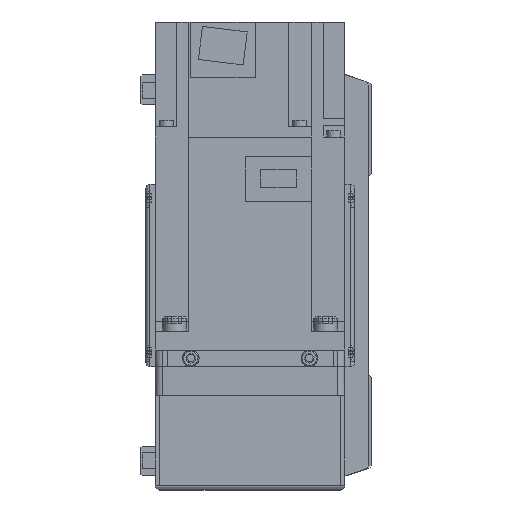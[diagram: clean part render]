
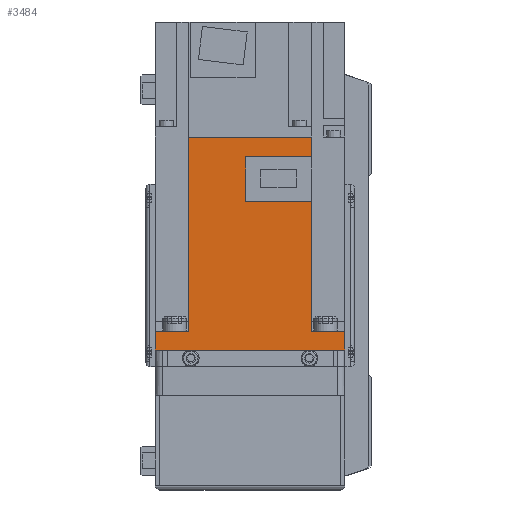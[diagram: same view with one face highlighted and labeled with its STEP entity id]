
A CAD part, left-side view. The second image highlights one B-rep face of the part: STEP entity #3484.
In plain terms, the highlighted planar face has unit normal (-1, 0, 0) as drawn and (1, 0, 0) by its records, which use the part's own axes.
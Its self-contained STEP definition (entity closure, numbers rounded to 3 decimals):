
#3484 = ADVANCED_FACE( '', ( #7256 ), #7257, .F. );
#7256 = FACE_OUTER_BOUND( '', #11060, .T. );
#7257 = PLANE( '', #11061 );
#11060 = EDGE_LOOP( '', ( #20842, #20843, #20844, #20845, #20846, #20847, #20848, #20849, #20850, #20851, #20852, #20853 ) );
#11061 = AXIS2_PLACEMENT_3D( '', #20854, #20855, #20856 );
#20842 = ORIENTED_EDGE( '', *, *, #24733, .F. );
#20843 = ORIENTED_EDGE( '', *, *, #24772, .F. );
#20844 = ORIENTED_EDGE( '', *, *, #23441, .F. );
#20845 = ORIENTED_EDGE( '', *, *, #23777, .T. );
#20846 = ORIENTED_EDGE( '', *, *, #23548, .F. );
#20847 = ORIENTED_EDGE( '', *, *, #22738, .T. );
#20848 = ORIENTED_EDGE( '', *, *, #24553, .T. );
#20849 = ORIENTED_EDGE( '', *, *, #23575, .F. );
#20850 = ORIENTED_EDGE( '', *, *, #24535, .F. );
#20851 = ORIENTED_EDGE( '', *, *, #24773, .F. );
#20852 = ORIENTED_EDGE( '', *, *, #24410, .F. );
#20853 = ORIENTED_EDGE( '', *, *, #24693, .F. );
#20854 = CARTESIAN_POINT( '', ( 40., 89.8, 40. ) );
#20855 = DIRECTION( '', ( -1., 0., 0. ) );
#20856 = DIRECTION( '', ( 0., 0., 1. ) );
#22738 = EDGE_CURVE( '', #27682, #27680, #27683, .T. );
#23441 = EDGE_CURVE( '', #28752, #28748, #28754, .T. );
#23548 = EDGE_CURVE( '', #27682, #28909, #28910, .T. );
#23575 = EDGE_CURVE( '', #28947, #28949, #28950, .T. );
#23777 = EDGE_CURVE( '', #28752, #28909, #29228, .T. );
#24410 = EDGE_CURVE( '', #30062, #27697, #30063, .T. );
#24535 = EDGE_CURVE( '', #30224, #28947, #30225, .T. );
#24553 = EDGE_CURVE( '', #27680, #28949, #30246, .T. );
#24693 = EDGE_CURVE( '', #30411, #30062, #30412, .T. );
#24733 = EDGE_CURVE( '', #27696, #30411, #30462, .T. );
#24772 = EDGE_CURVE( '', #28748, #27696, #30507, .T. );
#24773 = EDGE_CURVE( '', #27697, #30224, #30508, .T. );
#27680 = VERTEX_POINT( '', #34939 );
#27682 = VERTEX_POINT( '', #34942 );
#27683 = LINE( '', #34943, #34944 );
#27696 = VERTEX_POINT( '', #34960 );
#27697 = VERTEX_POINT( '', #34961 );
#28748 = VERTEX_POINT( '', #36827 );
#28752 = VERTEX_POINT( '', #36833 );
#28754 = LINE( '', #36836, #36837 );
#28909 = VERTEX_POINT( '', #37040 );
#28910 = LINE( '', #37041, #37042 );
#28947 = VERTEX_POINT( '', #37108 );
#28949 = VERTEX_POINT( '', #37111 );
#28950 = LINE( '', #37112, #37113 );
#29228 = LINE( '', #37516, #37517 );
#30062 = VERTEX_POINT( '', #38742 );
#30063 = LINE( '', #38743, #38744 );
#30224 = VERTEX_POINT( '', #38985 );
#30225 = LINE( '', #38986, #38987 );
#30246 = LINE( '', #39017, #39018 );
#30411 = VERTEX_POINT( '', #39365 );
#30412 = LINE( '', #39366, #39367 );
#30462 = LINE( '', #39442, #39443 );
#30507 = LINE( '', #39506, #39507 );
#30508 = LINE( '', #39508, #39509 );
#34939 = CARTESIAN_POINT( '', ( 40., 0., 40. ) );
#34942 = CARTESIAN_POINT( '', ( 40., 8., 40. ) );
#34943 = CARTESIAN_POINT( '', ( 40., 89.8, 40. ) );
#34944 = VECTOR( '', #41875, 1000. );
#34960 = CARTESIAN_POINT( '', ( 40., 81.4, -25.95 ) );
#34961 = CARTESIAN_POINT( '', ( 40., 62.8, -25.95 ) );
#36827 = CARTESIAN_POINT( '', ( 40., 89.8, -25.95 ) );
#36833 = CARTESIAN_POINT( '', ( 40., 89.8, 25.95 ) );
#36836 = CARTESIAN_POINT( '', ( 40., 89.8, 40. ) );
#36837 = VECTOR( '', #42722, 1000. );
#37040 = CARTESIAN_POINT( '', ( 40., 8., 25.95 ) );
#37041 = CARTESIAN_POINT( '', ( 40., 8., 40. ) );
#37042 = VECTOR( '', #42864, 1000. );
#37108 = CARTESIAN_POINT( '', ( 40., 8., -40. ) );
#37111 = CARTESIAN_POINT( '', ( 40., 0., -40. ) );
#37112 = CARTESIAN_POINT( '', ( 40., 89.8, -40. ) );
#37113 = VECTOR( '', #42889, 1000. );
#37516 = CARTESIAN_POINT( '', ( 40., 158., 25.95 ) );
#37517 = VECTOR( '', #43101, 1000. );
#38742 = CARTESIAN_POINT( '', ( 40., 62.8, 1.8 ) );
#38743 = CARTESIAN_POINT( '', ( 40., 62.8, 1.8 ) );
#38744 = VECTOR( '', #43779, 1000. );
#38985 = CARTESIAN_POINT( '', ( 40., 8., -25.95 ) );
#38986 = CARTESIAN_POINT( '', ( 40., 8., 40. ) );
#38987 = VECTOR( '', #43905, 1000. );
#39017 = CARTESIAN_POINT( '', ( 40., 0., 40. ) );
#39018 = VECTOR( '', #43918, 1000. );
#39365 = CARTESIAN_POINT( '', ( 40., 81.4, 1.8 ) );
#39366 = CARTESIAN_POINT( '', ( 40., 81.4, 1.8 ) );
#39367 = VECTOR( '', #44039, 1000. );
#39442 = CARTESIAN_POINT( '', ( 40., 81.4, -26. ) );
#39443 = VECTOR( '', #44075, 1000. );
#39506 = CARTESIAN_POINT( '', ( 40., 158., -25.95 ) );
#39507 = VECTOR( '', #44124, 1000. );
#39508 = CARTESIAN_POINT( '', ( 40., 158., -25.95 ) );
#39509 = VECTOR( '', #44125, 1000. );
#41875 = DIRECTION( '', ( 0., -1., 0. ) );
#42722 = DIRECTION( '', ( 0., 0., -1. ) );
#42864 = DIRECTION( '', ( 0., 0., -1. ) );
#42889 = DIRECTION( '', ( 0., -1., 0. ) );
#43101 = DIRECTION( '', ( 0., -1., 0. ) );
#43779 = DIRECTION( '', ( 0., 0., -1. ) );
#43905 = DIRECTION( '', ( 0., 0., -1. ) );
#43918 = DIRECTION( '', ( 0., 0., -1. ) );
#44039 = DIRECTION( '', ( 0., -1., 0. ) );
#44075 = DIRECTION( '', ( 0., 0., 1. ) );
#44124 = DIRECTION( '', ( 0., -1., 0. ) );
#44125 = DIRECTION( '', ( 0., -1., 0. ) );
